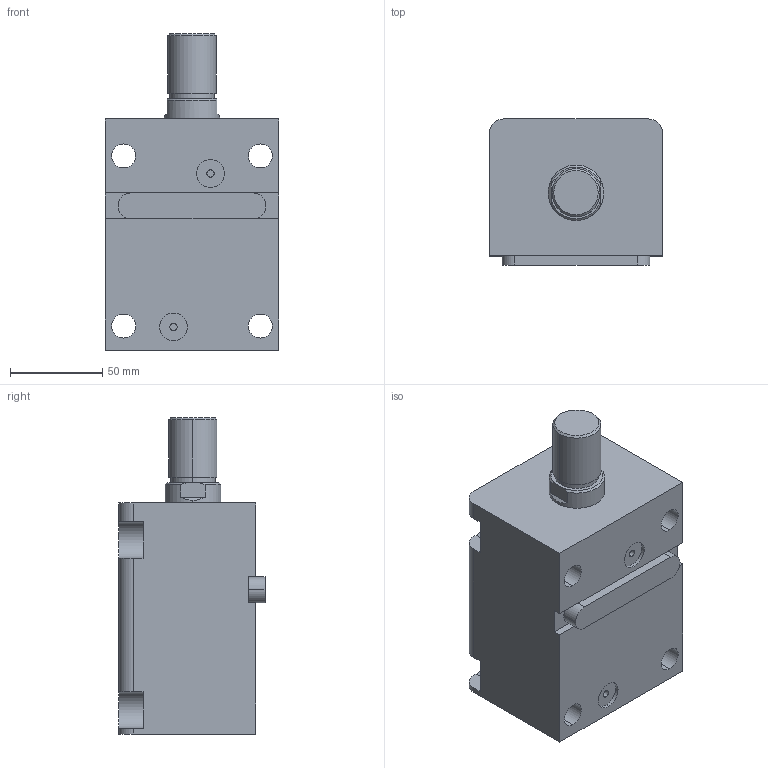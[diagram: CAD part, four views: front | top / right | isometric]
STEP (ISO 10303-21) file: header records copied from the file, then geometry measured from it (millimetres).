
FILE_DESCRIPTION (( 'STEP AP203' ), '1' );
FILE_NAME ('HTB-LAM50-65W.STEP', '2023-03-20T01:08:01', ( '微软用户' ), ( '微软中国' ), 'SwSTEP 2.0', 'SolidWorks 2012', '' );
FILE_SCHEMA (( 'CONFIG_CONTROL_DESIGN' ));
Length unit declared in the file: millimetre
Products named in the file (4): HTB-LAM50-65W; HTB-LWM50-瑩; HTB-LAM50-65W活塞杆; HTB-LAM50-65掛极
Assembly tree (3 placements, depth 2):
  HTB-LAM50-65W
    HTB-LAM50-65掛极
    HTB-LAM50-65W活塞杆
    HTB-LWM50-瑩
Bounding box: 94 x 79 x 171 mm (x, y, z)
Volume: 763680.1 mm3; surface area: 109097.8 mm2
Topology: 3 solids, 3 shells, 90 faces, 219 edges, 144 vertices
Faces by surface type: cylinder 41, plane 41, cone 4, torus 4
Entity records: 3107 total; most frequent: DIRECTION 497, CARTESIAN_POINT 487, ORIENTED_EDGE 438, EDGE_CURVE 219, AXIS2_PLACEMENT_3D 190, VERTEX_POINT 144, LINE 117, VECTOR 117
